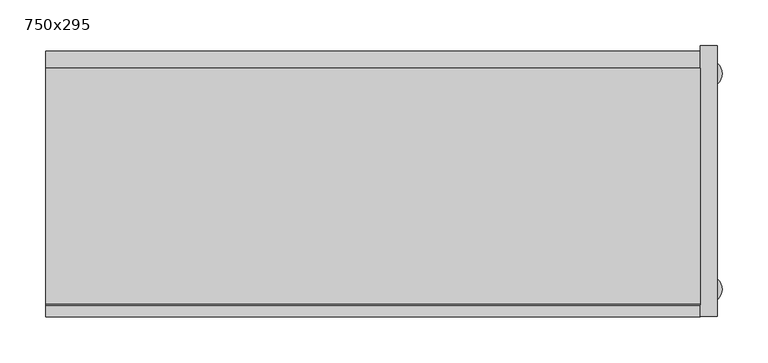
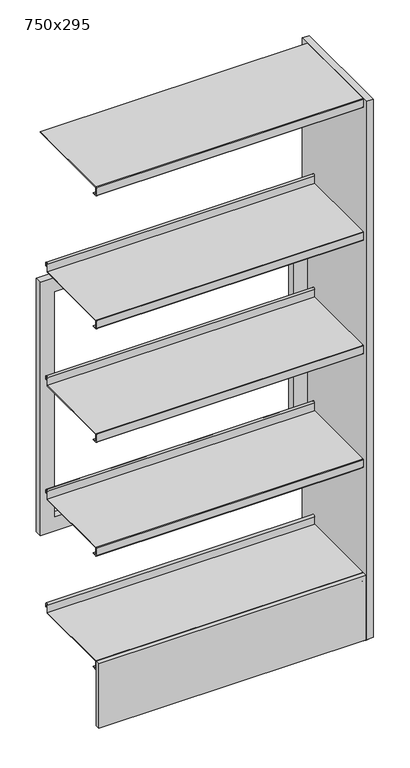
"""IFC4 building model written with IfcOpenShell, lengths in millimetres: furniture geometry, BK Library - Smaaland EF - 1530 : 750x295."""

from ifc_helpers import new_model, si_unit, point, frame, frame_2d, origin, origin_with_axes, place, context, project, spatial, polyline, circle_curve, trimmed, segment, composite_curve, outline, extrude, source, transform, mapped, element, save


def furniture_750x295_d1ab3b45(model_context):
    return source(origin(), model_context, "Body", "SweptSolid", [
        extrude(outline(polyline([(1106.1999512, -356.0), (391.1999512, -356.0), (391.1999512, 356.0), (1106.1999512, 356.0), (1106.1999512, -356.0)]), holes=[polyline([(1066.1999514, -317.5), (1066.1999514, 317.5), (431.1999514, 317.5), (431.1999514, -317.5), (1066.1999514, -317.5)])]), frame((0.0, 123.0, 0.0), z_axis=(0.0, 1.0, 0.0), x_axis=(0.0, 0.0, 1.0)), (0.0, 0.0, 1.0), 19.0),
        extrude(outline(polyline([(356.0, -135.2476624), (356.0, -147.5), (-356.0, -147.5), (-356.0, -135.2476624), (356.0, -135.2476624)])), frame((0.0, 0.0, 13.6999998), z_axis=(0.0, 0.0, 1.0), x_axis=(1.0, 0.0, 0.0)), (0.0, 0.0, 1.0), 181.4999514),
        extrude(outline(composite_curve([segment(polyline([(123.0, 1530.0), (123.0, 1528.0), (-133.75, 1528.0), (-133.75, 1506.5), (-121.75, 1506.5), (-121.75, 1505.0), (-133.75, 1505.0)]), True, "CONTINUOUS"), segment(trimmed(circle_curve(frame_2d((-133.75, 1506.5)), 1.5), [point((-133.75, 1505.0))], [point((-135.25, 1506.5))], False, "CARTESIAN"), True, "CONTINUOUS"), segment(polyline([(-135.25, 1506.5), (-135.25, 1528.5)]), True, "CONTINUOUS"), segment(trimmed(circle_curve(frame_2d((-133.75, 1528.5)), 1.5), [point((-135.25, 1528.5))], [point((-133.75, 1530.0))], False, "CARTESIAN"), True, "CONTINUOUS"), segment(polyline([(-133.75, 1530.0), (123.0, 1530.0)]), True, "CONTINUOUS")], self_intersect=False)), frame((-356.0, 0.0, 0.0), z_axis=(1.0, 0.0, 0.0), x_axis=(0.0, 1.0, 0.0)), (0.0, 0.0, 1.0), 712.0),
        extrude(outline(composite_curve([segment(polyline([(89.75, 1155.1999512), (89.75, 1176.7196336)]), True, "CONTINUOUS"), segment(trimmed(circle_curve(frame_2d((93.25, 1176.7196336)), 3.5), [point((89.75, 1176.7196336))], [point((96.75, 1176.7196336))], False, "CARTESIAN"), True, "CONTINUOUS"), segment(polyline([(96.75, 1176.7196336), (96.75, 1168.1999512), (95.25, 1168.1999512), (95.25, 1176.7020126)]), True, "CONTINUOUS"), segment(trimmed(circle_curve(frame_2d((93.25, 1176.7020126)), 2.0), [point((95.25, 1176.7020126))], [point((91.25, 1176.7020126))], True, "CARTESIAN"), True, "CONTINUOUS"), segment(polyline([(91.25, 1176.7020126), (91.25, 1155.1547733)]), True, "CONTINUOUS"), segment(trimmed(circle_curve(frame_2d((89.7951779, 1155.1547733)), 1.4548221), [point((91.25, 1155.1547733))], [point((89.7951779, 1153.6999512))], False, "CARTESIAN"), True, "CONTINUOUS"), segment(polyline([(89.7951779, 1153.6999512), (-133.75, 1153.6999512), (-133.75, 1132.1999512), (-121.75, 1132.1999512), (-121.75, 1130.6999512), (-133.75, 1130.6999512)]), True, "CONTINUOUS"), segment(trimmed(circle_curve(frame_2d((-133.75, 1132.1999512)), 1.5), [point((-133.75, 1130.6999512))], [point((-135.25, 1132.1999512))], False, "CARTESIAN"), True, "CONTINUOUS"), segment(polyline([(-135.25, 1132.1999512), (-135.25, 1153.6999512)]), True, "CONTINUOUS"), segment(trimmed(circle_curve(frame_2d((-133.75, 1153.6999512)), 1.5), [point((-135.25, 1153.6999512))], [point((-133.75, 1155.1999512))], False, "CARTESIAN"), True, "CONTINUOUS"), segment(polyline([(-133.75, 1155.1999512), (89.75, 1155.1999512)]), True, "CONTINUOUS")], self_intersect=False)), frame((-356.0, 0.0, 0.0), z_axis=(1.0, 0.0, 0.0), x_axis=(0.0, 1.0, 0.0)), (0.0, 0.0, 1.0), 712.0),
        extrude(outline(composite_curve([segment(polyline([(89.75, 835.1999512), (89.75, 856.7196336)]), True, "CONTINUOUS"), segment(trimmed(circle_curve(frame_2d((93.25, 856.7196336)), 3.5), [point((89.75, 856.7196336))], [point((96.75, 856.7196336))], False, "CARTESIAN"), True, "CONTINUOUS"), segment(polyline([(96.75, 856.7196336), (96.75, 848.1999512), (95.25, 848.1999512), (95.25, 856.7020126)]), True, "CONTINUOUS"), segment(trimmed(circle_curve(frame_2d((93.25, 856.7020126)), 2.0), [point((95.25, 856.7020126))], [point((91.25, 856.7020126))], True, "CARTESIAN"), True, "CONTINUOUS"), segment(polyline([(91.25, 856.7020126), (91.25, 835.1547733)]), True, "CONTINUOUS"), segment(trimmed(circle_curve(frame_2d((89.7951779, 835.1547733)), 1.4548221), [point((91.25, 835.1547733))], [point((89.7951779, 833.6999512))], False, "CARTESIAN"), True, "CONTINUOUS"), segment(polyline([(89.7951779, 833.6999512), (-133.75, 833.6999512), (-133.75, 812.1999512), (-121.75, 812.1999512), (-121.75, 810.6999512), (-133.75, 810.6999512)]), True, "CONTINUOUS"), segment(trimmed(circle_curve(frame_2d((-133.75, 812.1999512)), 1.5), [point((-133.75, 810.6999512))], [point((-135.25, 812.1999512))], False, "CARTESIAN"), True, "CONTINUOUS"), segment(polyline([(-135.25, 812.1999512), (-135.25, 833.6999512)]), True, "CONTINUOUS"), segment(trimmed(circle_curve(frame_2d((-133.75, 833.6999512)), 1.5), [point((-135.25, 833.6999512))], [point((-133.75, 835.1999512))], False, "CARTESIAN"), True, "CONTINUOUS"), segment(polyline([(-133.75, 835.1999512), (89.75, 835.1999512)]), True, "CONTINUOUS")], self_intersect=False)), frame((-356.0, 0.0, 0.0), z_axis=(1.0, 0.0, 0.0), x_axis=(0.0, 1.0, 0.0)), (0.0, 0.0, 1.0), 712.0),
        extrude(outline(composite_curve([segment(polyline([(89.75, 515.1999512), (89.75, 536.7196336)]), True, "CONTINUOUS"), segment(trimmed(circle_curve(frame_2d((93.25, 536.7196336)), 3.5), [point((89.75, 536.7196336))], [point((96.75, 536.7196336))], False, "CARTESIAN"), True, "CONTINUOUS"), segment(polyline([(96.75, 536.7196336), (96.75, 528.1999512), (95.25, 528.1999512), (95.25, 536.7020126)]), True, "CONTINUOUS"), segment(trimmed(circle_curve(frame_2d((93.25, 536.7020126)), 2.0), [point((95.25, 536.7020126))], [point((91.25, 536.7020126))], True, "CARTESIAN"), True, "CONTINUOUS"), segment(polyline([(91.25, 536.7020126), (91.25, 515.1547733)]), True, "CONTINUOUS"), segment(trimmed(circle_curve(frame_2d((89.7951779, 515.1547733)), 1.4548221), [point((91.25, 515.1547733))], [point((89.7951779, 513.6999512))], False, "CARTESIAN"), True, "CONTINUOUS"), segment(polyline([(89.7951779, 513.6999512), (-133.75, 513.6999512), (-133.75, 492.1999512), (-121.75, 492.1999512), (-121.75, 490.6999512), (-133.75, 490.6999512)]), True, "CONTINUOUS"), segment(trimmed(circle_curve(frame_2d((-133.75, 492.1999512)), 1.5), [point((-133.75, 490.6999512))], [point((-135.25, 492.1999512))], False, "CARTESIAN"), True, "CONTINUOUS"), segment(polyline([(-135.25, 492.1999512), (-135.25, 513.6999512)]), True, "CONTINUOUS"), segment(trimmed(circle_curve(frame_2d((-133.75, 513.6999512)), 1.5), [point((-135.25, 513.6999512))], [point((-133.75, 515.1999512))], False, "CARTESIAN"), True, "CONTINUOUS"), segment(polyline([(-133.75, 515.1999512), (89.75, 515.1999512)]), True, "CONTINUOUS")], self_intersect=False)), frame((-356.0, 0.0, 0.0), z_axis=(1.0, 0.0, 0.0), x_axis=(0.0, 1.0, 0.0)), (0.0, 0.0, 1.0), 712.0),
        extrude(outline(composite_curve([segment(polyline([(89.75, 195.1999512), (89.75, 216.7196336)]), True, "CONTINUOUS"), segment(trimmed(circle_curve(frame_2d((93.25, 216.7196336)), 3.5), [point((89.75, 216.7196336))], [point((96.75, 216.7196336))], False, "CARTESIAN"), True, "CONTINUOUS"), segment(polyline([(96.75, 216.7196336), (96.75, 208.1999512), (95.25, 208.1999512), (95.25, 216.7020126)]), True, "CONTINUOUS"), segment(trimmed(circle_curve(frame_2d((93.25, 216.7020126)), 2.0), [point((95.25, 216.7020126))], [point((91.25, 216.7020126))], True, "CARTESIAN"), True, "CONTINUOUS"), segment(polyline([(91.25, 216.7020126), (91.25, 195.1547733)]), True, "CONTINUOUS"), segment(trimmed(circle_curve(frame_2d((89.7951779, 195.1547733)), 1.4548221), [point((91.25, 195.1547733))], [point((89.7951779, 193.6999512))], False, "CARTESIAN"), True, "CONTINUOUS"), segment(polyline([(89.7951779, 193.6999512), (-133.75, 193.6999512), (-133.75, 172.1999512), (-121.75, 172.1999512), (-121.75, 170.6999512), (-133.75, 170.6999512)]), True, "CONTINUOUS"), segment(trimmed(circle_curve(frame_2d((-133.75, 172.1999512)), 1.5), [point((-133.75, 170.6999512))], [point((-135.25, 172.1999512))], False, "CARTESIAN"), True, "CONTINUOUS"), segment(polyline([(-135.25, 172.1999512), (-135.25, 193.6999512)]), True, "CONTINUOUS"), segment(trimmed(circle_curve(frame_2d((-133.75, 193.6999512)), 1.5), [point((-135.25, 193.6999512))], [point((-133.75, 195.1999512))], False, "CARTESIAN"), True, "CONTINUOUS"), segment(polyline([(-133.75, 195.1999512), (89.75, 195.1999512)]), True, "CONTINUOUS")], self_intersect=False)), frame((-356.0, 0.0, 0.0), z_axis=(1.0, 0.0, 0.0), x_axis=(0.0, 1.0, 0.0)), (0.0, 0.0, 1.0), 712.0),
        extrude(outline(polyline([(356.0, 147.5), (375.0, 147.5), (375.0, -147.5), (356.0, -147.5), (356.0, 147.5)])), frame((0.0, 0.0, 13.6999998), z_axis=(0.0, 0.0, 1.0), x_axis=(1.0, 0.0, 0.0)), (0.0, 0.0, 1.0), 1516.3000002),
        extrude(outline(composite_curve([segment(trimmed(circle_curve(frame_2d((365.5005427, 117.4952633)), 14.4994573), [point((380.0, 117.4952633))], [point((351.0010853, 117.4952633))], False, "CARTESIAN"), True, "CONTINUOUS"), segment(trimmed(circle_curve(frame_2d((365.5005427, 117.4952633)), 14.4994573), [point((351.0010853, 117.4952633))], [point((380.0, 117.4952633))], False, "CARTESIAN"), True, "CONTINUOUS")], self_intersect=False)), origin_with_axes(), (0.0, 0.0, 1.0), 13.6999998),
        extrude(outline(composite_curve([segment(trimmed(circle_curve(frame_2d((365.5005427, -117.4952633)), 14.4994573), [point((380.0, -117.4952633))], [point((351.0010853, -117.4952633))], False, "CARTESIAN"), True, "CONTINUOUS"), segment(trimmed(circle_curve(frame_2d((365.5005427, -117.4952633)), 14.4994573), [point((351.0010853, -117.4952633))], [point((380.0, -117.4952633))], False, "CARTESIAN"), True, "CONTINUOUS")], self_intersect=False)), origin_with_axes(), (0.0, 0.0, 1.0), 13.6999998),
    ])


if __name__ == "__main__":
    model = new_model("IFC4")
    model_context = context("Model", 3, world=origin())
    ifc_project = project(units=[si_unit("LENGTHUNIT", "METRE", prefix="MILLI")], contexts=[model_context])
    site = spatial("IfcSite", under=ifc_project)
    building = spatial("IfcBuilding", under=site)
    placement = place(None, origin())
    furniture_750x295_shape = furniture_750x295_d1ab3b45(model_context)
    element("IfcFurniture", 1, ObjectType="BK Library - Smaaland EF - 1530 : 750x295", at=placement, inside=building, context=model_context, shape_type="MappedRepresentation", body=[
        mapped(furniture_750x295_shape, transform((0.0, 0.0, 0.0), x_axis=(1.0, 0.0, 0.0), y_axis=(0.0, 1.0, 0.0), z_axis=(0.0, 0.0, 1.0))),
    ])
    save(model, "model.ifc")
